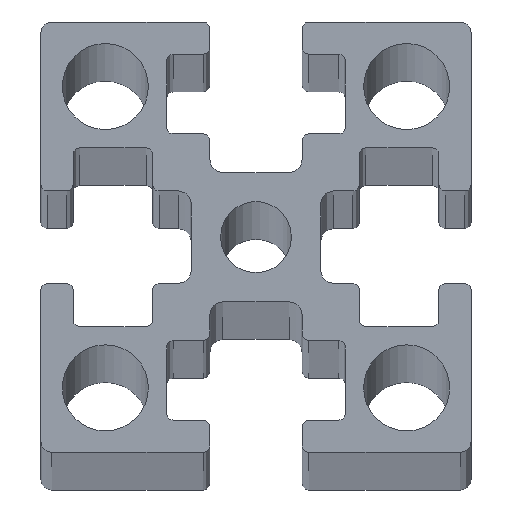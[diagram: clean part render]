
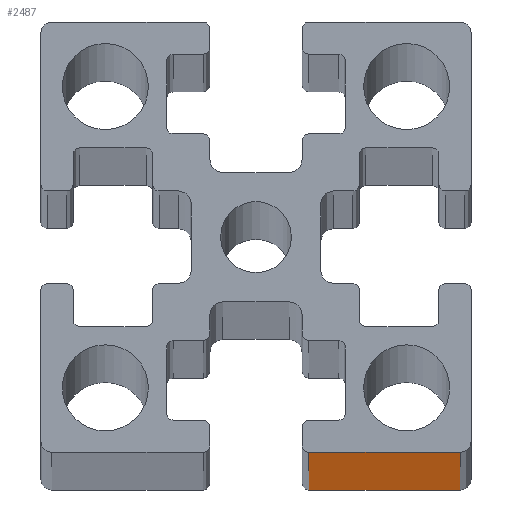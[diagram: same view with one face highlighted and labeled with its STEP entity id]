
A CAD part, top view. The second image highlights one B-rep face of the part: STEP entity #2487.
In plain terms, the highlighted planar face has unit normal (0, -1, 0).
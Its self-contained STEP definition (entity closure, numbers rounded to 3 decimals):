
#2429=CARTESIAN_POINT('',(279.5,160.0,1000.0));
#2430=VERTEX_POINT('',#2429);
#2438=CARTESIAN_POINT('',(279.5,160.0,0.0));
#2439=VERTEX_POINT('',#2438);
#2440=CARTESIAN_POINT('',(279.5,160.0,0.0));
#2441=DIRECTION('',(0.0,0.0,1.0));
#2442=VECTOR('',#2441,1000.0);
#2443=LINE('',#2440,#2442);
#2444=EDGE_CURVE('',#2439,#2430,#2443,.T.);
#2457=CARTESIAN_POINT('',(279.5,160.0,0.0));
#2458=DIRECTION('',(0.0,-1.0,0.0));
#2459=DIRECTION('',(0.0,0.0,-1.0));
#2460=AXIS2_PLACEMENT_3D('',#2457,#2458,#2459);
#2461=PLANE('',#2460);
#2462=CARTESIAN_POINT('',(272.45,160.0,1000.0));
#2463=VERTEX_POINT('',#2462);
#2464=CARTESIAN_POINT('',(279.5,160.0,1000.0));
#2465=DIRECTION('',(-1.0,0.0,0.0));
#2466=VECTOR('',#2465,7.05);
#2467=LINE('',#2464,#2466);
#2468=EDGE_CURVE('',#2430,#2463,#2467,.T.);
#2469=ORIENTED_EDGE('',*,*,#2468,.T.);
#2470=CARTESIAN_POINT('',(272.45,160.0,0.0));
#2471=VERTEX_POINT('',#2470);
#2472=CARTESIAN_POINT('',(272.45,160.0,0.0));
#2473=DIRECTION('',(0.0,0.0,1.0));
#2474=VECTOR('',#2473,1000.0);
#2475=LINE('',#2472,#2474);
#2476=EDGE_CURVE('',#2471,#2463,#2475,.T.);
#2477=ORIENTED_EDGE('',*,*,#2476,.F.);
#2478=CARTESIAN_POINT('',(279.5,160.0,0.0));
#2479=DIRECTION('',(-1.0,0.0,0.0));
#2480=VECTOR('',#2479,7.05);
#2481=LINE('',#2478,#2480);
#2482=EDGE_CURVE('',#2439,#2471,#2481,.T.);
#2483=ORIENTED_EDGE('',*,*,#2482,.F.);
#2484=ORIENTED_EDGE('',*,*,#2444,.T.);
#2485=EDGE_LOOP('',(#2469,#2477,#2483,#2484));
#2486=FACE_OUTER_BOUND('',#2485,.T.);
#2487=ADVANCED_FACE('',(#2486),#2461,.T.);
